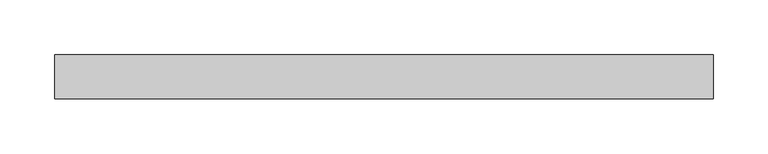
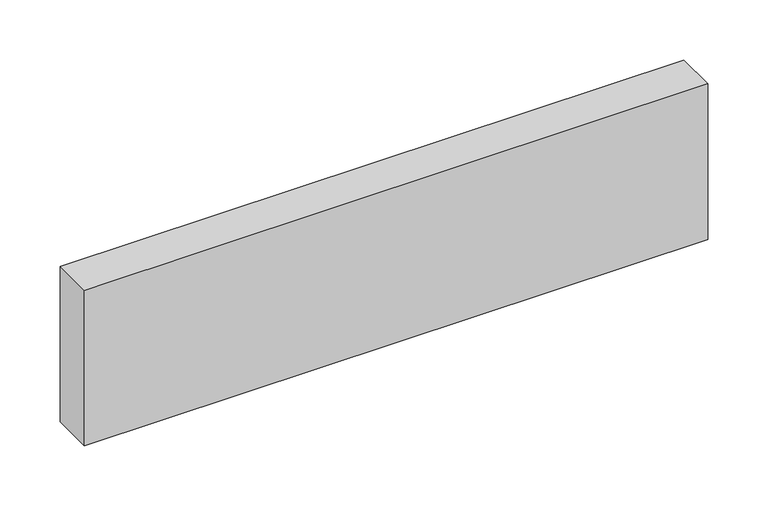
"""IFC4 building model written with IfcOpenShell, lengths in millimetres: plate geometry, Panneau système vide : Epaiss. 4cm."""

from ifc_helpers import new_model, si_unit, origin, origin_with_axes, place, context, project, spatial, polyline, outline, extrude, source, transform, mapped, element, save


def plate_6c3f0222(model_context):
    return source(origin(), model_context, "Body", "SweptSolid", [
        extrude(outline(polyline([(300.0, -20.0), (-300.0, -20.0), (-300.0, 20.0), (300.0, 20.0), (300.0, -20.0)])), origin_with_axes(), (0.0, 0.0, 1.0), 158.3333333),
    ])


if __name__ == "__main__":
    model = new_model("IFC4")
    model_context = context("Model", 3, world=origin())
    ifc_project = project(units=[si_unit("LENGTHUNIT", "METRE", prefix="MILLI")], contexts=[model_context])
    site = spatial("IfcSite", under=ifc_project)
    building = spatial("IfcBuilding", under=site)
    placement = place(None, origin())
    plate_shape = plate_6c3f0222(model_context)
    element("IfcPlate", 1, ObjectType="Panneau système vide : Epaiss. 4cm", at=placement, inside=building, context=model_context, shape_type="MappedRepresentation", body=[
        mapped(plate_shape, transform((0.0, 0.0, 0.0), x_axis=(1.0, 0.0, 0.0), y_axis=(0.0, 1.0, 0.0), z_axis=(0.0, 0.0, 1.0))),
    ])
    save(model, "model.ifc")
